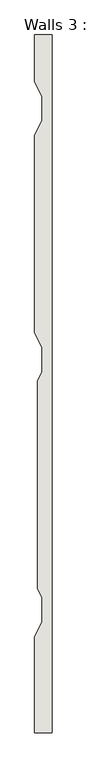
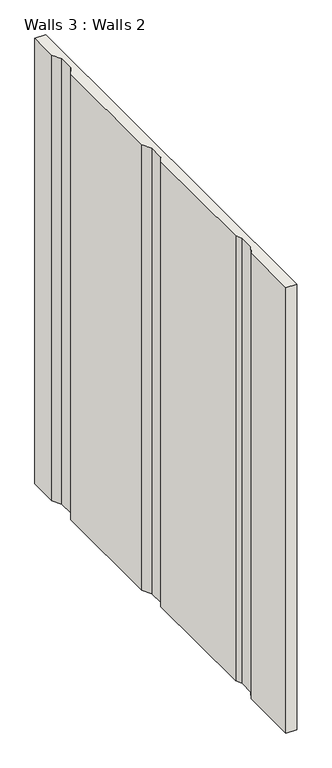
"""IFC4 building model written with IfcOpenShell, lengths in millimetres: wall geometry, Walls 3 : Walls 2."""

from ifc_helpers import new_model, si_unit, frame, origin, place, context, project, spatial, polyline, outline, extrude, source, transform, mapped, element, save


def walls_3_walls_2_6919044b(model_context):
    return source(origin(), model_context, "Body", "SweptSolid", [
        extrude(outline(polyline([(4392.9144625, 5053.8058616), (4319.1513964, 5053.8058616), (4319.1513964, 5464.0369435), (4351.4144635, 5524.9782925), (4351.4144635, 5629.978302), (4330.2303818, 5669.9926727), (4330.2303818, 6554.9639128), (4351.4144635, 6594.9782835), (4351.4144635, 6699.9782929), (4319.1513964, 6760.9196419), (4319.1513964, 7604.0369435), (4351.4144635, 7664.9782835), (4351.4144635, 7769.9782929), (4319.1513964, 7830.9196419), (4319.1513964, 8031.3293418), (4392.9144625, 8031.3293418), (4392.9144625, 5053.8058616)])), frame((0.0, 0.0, 116.5252864), z_axis=(0.0, 0.0, 1.0), x_axis=(1.0, 0.0, 0.0)), (0.0, 0.0, 1.0), 3224.1299296),
    ])


if __name__ == "__main__":
    model = new_model("IFC4")
    model_context = context("Model", 3, world=origin())
    ifc_project = project(units=[si_unit("LENGTHUNIT", "METRE", prefix="MILLI")], contexts=[model_context])
    site = spatial("IfcSite", under=ifc_project)
    building = spatial("IfcBuilding", under=site)
    placement = place(None, origin())
    walls_3_walls_2_shape = walls_3_walls_2_6919044b(model_context)
    element("IfcWall", 1, ObjectType="Walls 3 : Walls 2", at=placement, inside=building, context=model_context, shape_type="MappedRepresentation", body=[
        mapped(walls_3_walls_2_shape, transform((0.0, 0.0, 0.0), x_axis=(1.0, 0.0, 0.0), y_axis=(0.0, 1.0, 0.0), z_axis=(0.0, 0.0, 1.0))),
    ])
    save(model, "model.ifc")
